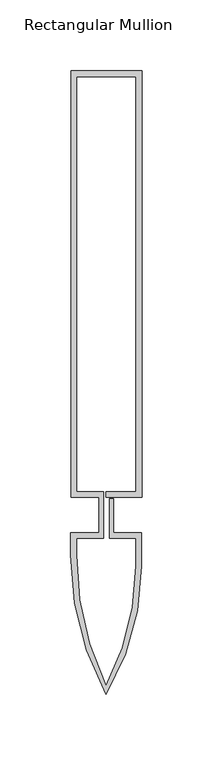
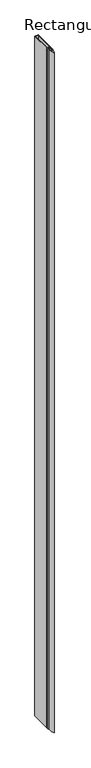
"""IFC4 building model written with IfcOpenShell, lengths in millimetres: member geometry, Rectangular Mullion : Reynaers_CW-50_Mullion-Transom_Vertical_300.5mm_Facecap-05."""

from ifc_helpers import new_model, si_unit, point, frame, frame_2d, origin, place, context, project, spatial, polyline, circle_curve, trimmed, segment, composite_curve, outline, extrude, source, transform, mapped, element, save


def rectangular_mullion_e1deb40f(model_context):
    return source(origin(), model_context, "Body", "SweptSolid", [
        extrude(outline(composite_curve([segment(polyline([(-24.8004059, 313.0), (25.1995941, 313.0), (25.1995941, 12.5), (0.0, 12.5), (0.0, 16.5), (21.1995941, 16.5), (21.1995941, 309.0), (-20.8004059, 309.0), (-20.8004059, 16.5), (-1.9004059, 16.5), (-1.9004059, -16.5), (-20.994845, -16.5), (-20.994845, -28.2355063)]), True, "CONTINUOUS"), segment(trimmed(circle_curve(frame_2d((191.2554764, -28.2355063)), 212.2503214), [point((-20.994845, -28.2355063))], [point((0.0, -120.2764846))], True, "CARTESIAN"), True, "CONTINUOUS"), segment(trimmed(circle_curve(frame_2d((-158.432152, -36.0547506)), 179.426997), [point((0.0, -120.2764846))], [point((20.994845, -36.0547506))], True, "CARTESIAN"), True, "CONTINUOUS"), segment(polyline([(20.994845, -36.0547506), (20.994845, -16.5), (2.2995941, -16.5), (2.2995941, 11.5), (5.2995941, 11.5), (5.2995941, -12.5), (24.994845, -12.5), (24.994845, -36.0195976)]), True, "CONTINUOUS"), segment(trimmed(circle_curve(frame_2d((-151.2704106, -36.0195976)), 176.2652556), [point((24.994845, -36.0195976))], [point((0.0, -126.5))], False, "CARTESIAN"), True, "CONTINUOUS"), segment(trimmed(circle_curve(frame_2d((181.1469577, -28.111878)), 206.1418028), [point((0.0, -126.5))], [point((-24.994845, -28.111878))], False, "CARTESIAN"), True, "CONTINUOUS"), segment(polyline([(-24.994845, -28.111878), (-24.994845, -12.5), (-4.9004059, -12.5), (-4.9004059, 12.5), (-24.8004059, 12.5), (-24.8004059, 313.0)]), True, "CONTINUOUS")], self_intersect=False)), frame((0.0, 0.0, -10400.0), z_axis=(0.0, 0.0, 1.0), x_axis=(1.0, 0.0, 0.0)), (0.0, 0.0, 1.0), 10400.0),
    ])


if __name__ == "__main__":
    model = new_model("IFC4")
    model_context = context("Model", 3, world=origin())
    ifc_project = project(units=[si_unit("LENGTHUNIT", "METRE", prefix="MILLI")], contexts=[model_context])
    site = spatial("IfcSite", under=ifc_project)
    building = spatial("IfcBuilding", under=site)
    placement = place(None, origin())
    rectangular_mullion_shape = rectangular_mullion_e1deb40f(model_context)
    element("IfcMember", 1, ObjectType="Rectangular Mullion : Reynaers_CW-50_Mullion-Transom_Vertical_300.5mm_Facecap-05", at=placement, inside=building, context=model_context, shape_type="MappedRepresentation", body=[
        mapped(rectangular_mullion_shape, transform((0.0, 0.0, 0.0), x_axis=(1.0, 0.0, 0.0), y_axis=(0.0, 1.0, 0.0), z_axis=(0.0, 0.0, 1.0))),
    ])
    save(model, "model.ifc")
